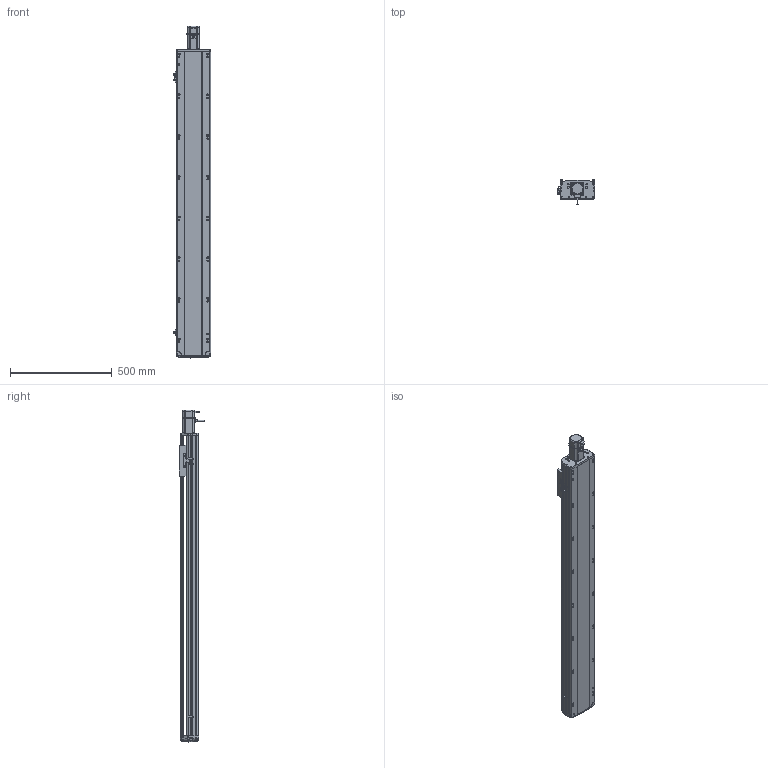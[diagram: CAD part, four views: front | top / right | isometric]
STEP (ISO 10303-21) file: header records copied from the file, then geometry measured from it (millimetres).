
FILE_DESCRIPTION (( 'STEP AP214' ), '1' );
FILE_NAME ('RTH17-XX-1250-E-M40-C4.STEP', '2025-10-24T05:46:42', ( '' ), ( '' ), 'SwSTEP 2.0', 'SolidWorks 2018', '' );
FILE_SCHEMA (( 'AUTOMOTIVE_DESIGN' ));
Length unit declared in the file: millimetre
Products named in the file (9): N_RTH17-E-008-P40电机板^RTH17-XX-XX-E-M40-C4（方程式）; N_RTH17-E-004丝杆螺母连接座^RTH17-XX-XX-E-M40-C4（方程式）; N_RTH17-GY-001P^RTH17-XX-XX-E-M40-C4（方程式）; N_RTH17-E-007上盖^RTH17-XX-XX-E-M40-C4（方程式）; RTH17-XX-1250-E-M40-C4; N_M40^RTH17-XX-XX-E-M40-C4（方程式）; N_RTH17-E-011底座^RTH17-XX-XX-E-M40-C4（方程式）; N_RTH-BL-012 感应片(外置)^RTH17-XX-XX-E-M40-C4（方程式）; N_OMRON EE-SX672 換覜ん^RTH17-XX-XX-E-M40-C4ㄗ源最宒ㄘ
Assembly tree (10 placements, depth 2):
  RTH17-XX-1250-E-M40-C4
    N_RTH17-E-011底座^RTH17-XX-XX-E-M40-C4（方程式）
    N_RTH17-E-007上盖^RTH17-XX-XX-E-M40-C4（方程式）
    N_RTH17-E-008-P40电机板^RTH17-XX-XX-E-M40-C4（方程式）
    N_OMRON EE-SX672 換覜ん^RTH17-XX-XX-E-M40-C4ㄗ源最宒ㄘ  x3
    N_RTH-BL-012 感应片(外置)^RTH17-XX-XX-E-M40-C4（方程式）
    N_RTH17-E-004丝杆螺母连接座^RTH17-XX-XX-E-M40-C4（方程式）
    N_RTH17-GY-001P^RTH17-XX-XX-E-M40-C4（方程式）
    N_M40^RTH17-XX-XX-E-M40-C4（方程式）
Bounding box: 183.5 x 127 x 1630.69 mm (x, y, z)
Volume: 11580048.6 mm3; surface area: 1522472.1 mm2
Topology: 9 solids, 11 shells, 1713 faces, 4819 edges, 3146 vertices
Faces by surface type: plane 833, cylinder 513, bspline 330, cone 28, torus 9
Entity records: 51101 total; most frequent: CARTESIAN_POINT 20286, ORIENTED_EDGE 6662, DIRECTION 5535, EDGE_CURVE 3335, VERTEX_POINT 2182, AXIS2_PLACEMENT_3D 1852, LINE 1831, VECTOR 1831
